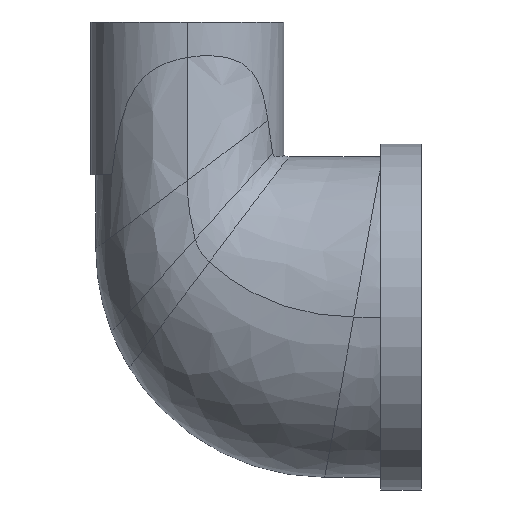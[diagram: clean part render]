
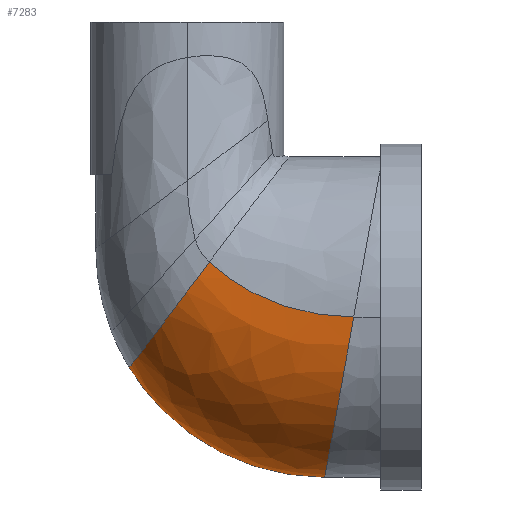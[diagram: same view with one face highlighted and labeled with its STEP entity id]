
A CAD part, front view. The second image highlights one B-rep face of the part: STEP entity #7283.
In plain terms, the highlighted free-form (B-spline) face has degree [3, 3] with [7, 7] control points.
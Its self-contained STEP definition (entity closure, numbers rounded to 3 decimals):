
#129 = CARTESIAN_POINT ( 'NONE',  ( 7.745, 0., -15.257 ) ) ;
#216 = CARTESIAN_POINT ( 'NONE',  ( 15.987, -14.794, -2.049 ) ) ;
#249 = CARTESIAN_POINT ( 'NONE',  ( 11.582, 0., -15.75 ) ) ;
#253 = CARTESIAN_POINT ( 'NONE',  ( 15.009, -14.601, 0. ) ) ;
#360 = CARTESIAN_POINT ( 'NONE',  ( -0.877, -11.829, 1.364 ) ) ;
#833 = EDGE_CURVE ( 'NONE', #9245, #5083, #9434, .T. ) ;
#927 = CARTESIAN_POINT ( 'NONE',  ( -2.291, -1.709, -9.622 ) ) ;
#964 = CARTESIAN_POINT ( 'NONE',  ( 10.571, -13.475, -5.782 ) ) ;
#991 = CARTESIAN_POINT ( 'NONE',  ( 7.745, -1.861, -15.257 ) ) ;
#1024 = CARTESIAN_POINT ( 'NONE',  ( 7.702, -13.636, -0.533 ) ) ;
#1132 = CARTESIAN_POINT ( 'NONE',  ( -4.269, -4.975, -5.995 ) ) ;
#1661 = CARTESIAN_POINT ( 'NONE',  ( 16.351, -14.794, 0. ) ) ;
#1698 = CARTESIAN_POINT ( 'NONE',  ( -2.291, 0., -9.622 ) ) ;
#1801 = CARTESIAN_POINT ( 'NONE',  ( -1.873, -5.127, -8.928 ) ) ;
#1871 = CARTESIAN_POINT ( 'NONE',  ( 3.028, -12.671, 4.573 ) ) ;
#1905 = CARTESIAN_POINT ( 'NONE',  ( -5.263, -4.899, -4.403 ) ) ;
#1936 = CARTESIAN_POINT ( 'NONE',  ( 2.037, -12.671, 3.125 ) ) ;
#2065 = CARTESIAN_POINT ( 'NONE',  ( 16.351, -14.794, 0. ) ) ;
#2264 = ORIENTED_EDGE ( 'NONE', *, *, #833, .T. ) ;
#2456 = ORIENTED_EDGE ( 'NONE', *, *, #5210, .F. ) ;
#2476 = CARTESIAN_POINT ( 'NONE',  ( 8.483, -13.636, 1.333 ) ) ;
#2493 = CARTESIAN_POINT ( 'NONE',  ( -2.291, 0., -9.622 ) ) ;
#2690 = CARTESIAN_POINT ( 'NONE',  ( 8.483, -13.636, 1.333 ) ) ;
#2712 = EDGE_CURVE ( 'NONE', #6451, #9245, #6723, .T. ) ;
#2754 = CARTESIAN_POINT ( 'NONE',  ( -5.263, -4.899, -4.403 ) ) ;
#3128 = CARTESIAN_POINT ( 'NONE',  ( 13.5, -1.937, -15.75 ) ) ;
#3257 = CARTESIAN_POINT ( 'NONE',  ( 13.665, -5.809, -14.907 ) ) ;
#3265 = CARTESIAN_POINT ( 'NONE',  ( 13.5, -1.937, -15.75 ) ) ;
#3337 = CARTESIAN_POINT ( 'NONE',  ( 14.318, -10.733, -11.377 ) ) ;
#3372 = CARTESIAN_POINT ( 'NONE',  ( 13.665, -5.809, -14.907 ) ) ;
#3408 = CARTESIAN_POINT ( 'NONE',  ( 11.78, -5.733, -14.902 ) ) ;
#3483 = CARTESIAN_POINT ( 'NONE',  ( -5.709, 0., -4.966 ) ) ;
#3519 = B_SPLINE_CURVE_WITH_KNOTS ( 'NONE', 3,
 ( #1661, #5499, #8673, #6372, #3257, #3128, #9398 ),
 .UNSPECIFIED., .F., .F.,
 ( 4, 1, 1, 1, 4 ),
 ( 0., 0.25, 0.5, 0.75, 1. ),
 .UNSPECIFIED. ) ;
#3580 = CARTESIAN_POINT ( 'NONE',  ( -2.505, -9.193, -3.478 ) ) ;
#4002 = CARTESIAN_POINT ( 'NONE',  ( 11.582, 0., -15.75 ) ) ;
#4033 = CARTESIAN_POINT ( 'NONE',  ( 13.5, 0., -15.75 ) ) ;
#4051 = CARTESIAN_POINT ( 'NONE',  ( 6.139, -12.926, -4.265 ) ) ;
#4084 = CARTESIAN_POINT ( 'NONE',  ( 3.028, -12.671, 4.573 ) ) ;
#4158 = CARTESIAN_POINT ( 'NONE',  ( 16.351, -14.794, 0. ) ) ;
#4188 = CARTESIAN_POINT ( 'NONE',  ( 7.745, 0., -15.257 ) ) ;
#4588 = CARTESIAN_POINT ( 'NONE',  ( -5.709, 0., -4.966 ) ) ;
#4670 = FACE_OUTER_BOUND ( 'NONE', #9375, .T. ) ;
#4825 = CARTESIAN_POINT ( 'NONE',  ( -5.709, 0., -4.966 ) ) ;
#4842 = CARTESIAN_POINT ( 'NONE',  ( 15.259, -14.024, -6.145 ) ) ;
#4941 = CARTESIAN_POINT ( 'NONE',  ( 2.365, -1.785, -13.085 ) ) ;
#4947 = CARTESIAN_POINT ( 'NONE',  ( 12.323, -14.215, 0.247 ) ) ;
#4970 = ORIENTED_EDGE ( 'NONE', *, *, #2712, .T. ) ;
#4982 = CARTESIAN_POINT ( 'NONE',  ( 4.072, -13.057, 1.422 ) ) ;
#5057 = CARTESIAN_POINT ( 'NONE',  ( -5.709, -1.633, -4.966 ) ) ;
#5083 = VERTEX_POINT ( 'NONE', #4588 ) ;
#5085 = CARTESIAN_POINT ( 'NONE',  ( -4.71, 0., -6.604 ) ) ;
#5210 = EDGE_CURVE ( 'NONE', #6854, #5083, #6747, .T. ) ;
#5472 = CARTESIAN_POINT ( 'NONE',  ( 16.351, -14.794, 0. ) ) ;
#5499 = CARTESIAN_POINT ( 'NONE',  ( 15.987, -14.794, -2.049 ) ) ;
#5590 = CARTESIAN_POINT ( 'NONE',  ( -4.71, 0., -6.604 ) ) ;
#5606 = CARTESIAN_POINT ( 'NONE',  ( 2.205, -12.377, -1.86 ) ) ;
#5638 = CARTESIAN_POINT ( 'NONE',  ( 11.739, -14.215, -1.763 ) ) ;
#5861 = CARTESIAN_POINT ( 'NONE',  ( 2.146, -12.478, 5.392 ) ) ;
#6372 = CARTESIAN_POINT ( 'NONE',  ( 14.318, -10.733, -11.377 ) ) ;
#6413 = CARTESIAN_POINT ( 'NONE',  ( 12.565, -10.593, -11.367 ) ) ;
#6451 = VERTEX_POINT ( 'NONE', #2065 ) ;
#6514 = CARTESIAN_POINT ( 'NONE',  ( 5.005, -13.057, 3.064 ) ) ;
#6548 = CARTESIAN_POINT ( 'NONE',  ( -0.206, -9.473, -6.068 ) ) ;
#6589 = CARTESIAN_POINT ( 'NONE',  ( 5.005, -13.057, 3.064 ) ) ;
#6626 = CARTESIAN_POINT ( 'NONE',  ( -3.475, -9.053, -2.073 ) ) ;
#6723 = B_SPLINE_CURVE_WITH_KNOTS ( 'NONE', 3,
 ( #4158, #253, #4947, #2690, #6589, #1871, #9713 ),
 .UNSPECIFIED., .F., .F.,
 ( 4, 1, 1, 1, 4 ),
 ( 0., 0.25, 0.5, 0.75, 1. ),
 .UNSPECIFIED. ) ;
#6727 = CARTESIAN_POINT ( 'NONE',  ( 2.146, -12.478, 5.392 ) ) ;
#6747 = B_SPLINE_CURVE_WITH_KNOTS ( 'NONE', 3,
 ( #4033, #4002, #129, #7950, #2493, #5590, #4825 ),
 .UNSPECIFIED., .F., .F.,
 ( 4, 1, 1, 1, 4 ),
 ( 0., 0.25, 0.5, 0.75, 1. ),
 .UNSPECIFIED. ) ;
#6854 = VERTEX_POINT ( 'NONE', #7975 ) ;
#6914 = CARTESIAN_POINT ( 'NONE',  ( 2.146, -12.478, 5.392 ) ) ;
#7089 = ORIENTED_EDGE ( 'NONE', *, *, #7834, .F. ) ;
#7196 = CARTESIAN_POINT ( 'NONE',  ( 8.01, -5.581, -14.415 ) ) ;
#7233 = CARTESIAN_POINT ( 'NONE',  ( 2.718, -5.354, -12.297 ) ) ;
#7283 = ADVANCED_FACE ( 'NONE', ( #4670 ), #9558, .T. ) ;
#7295 = CARTESIAN_POINT ( 'NONE',  ( 13.5, 0., -15.75 ) ) ;
#7372 = CARTESIAN_POINT ( 'NONE',  ( -3.475, -9.053, -2.073 ) ) ;
#7408 = CARTESIAN_POINT ( 'NONE',  ( -0.877, -11.829, 1.364 ) ) ;
#7442 = CARTESIAN_POINT ( 'NONE',  ( -5.709, -1.633, -4.966 ) ) ;
#7505 = CARTESIAN_POINT ( 'NONE',  ( -5.709, 0., -4.966 ) ) ;
#7834 = EDGE_CURVE ( 'NONE', #6451, #6854, #3519, .T. ) ;
#7950 = CARTESIAN_POINT ( 'NONE',  ( 2.365, 0., -13.085 ) ) ;
#7962 = CARTESIAN_POINT ( 'NONE',  ( 9.059, -10.313, -10.927 ) ) ;
#7975 = CARTESIAN_POINT ( 'NONE',  ( 13.5, 0., -15.75 ) ) ;
#8031 = CARTESIAN_POINT ( 'NONE',  ( 13.696, -13.841, -6.137 ) ) ;
#8174 = CARTESIAN_POINT ( 'NONE',  ( 1.138, -12.478, 4.049 ) ) ;
#8236 = CARTESIAN_POINT ( 'NONE',  ( 1.138, -12.478, 4.049 ) ) ;
#8269 = CARTESIAN_POINT ( 'NONE',  ( -4.71, -1.659, -6.604 ) ) ;
#8673 = CARTESIAN_POINT ( 'NONE',  ( 15.259, -14.024, -6.145 ) ) ;
#8745 = CARTESIAN_POINT ( 'NONE',  ( 14.571, -14.601, -2.046 ) ) ;
#8815 = CARTESIAN_POINT ( 'NONE',  ( 4.118, -9.893, -9.047 ) ) ;
#8852 = CARTESIAN_POINT ( 'NONE',  ( 15.009, -14.601, 0. ) ) ;
#9025 = CARTESIAN_POINT ( 'NONE',  ( 0.054, -12.012, 0.231 ) ) ;
#9245 = VERTEX_POINT ( 'NONE', #6914 ) ;
#9375 = EDGE_LOOP ( 'NONE', ( #2264, #2456, #7089, #4970 ) ) ;
#9398 = CARTESIAN_POINT ( 'NONE',  ( 13.5, 0., -15.75 ) ) ;
#9434 = B_SPLINE_CURVE_WITH_KNOTS ( 'NONE', 3,
 ( #5861, #8174, #360, #6626, #1905, #5057, #3483 ),
 .UNSPECIFIED., .F., .F.,
 ( 4, 1, 1, 1, 4 ),
 ( 0., 0.25, 0.5, 0.75, 1. ),
 .UNSPECIFIED. ) ;
#9558 = B_SPLINE_SURFACE_WITH_KNOTS ( 'NONE', 3, 3, ( 
 ( #5472, #216, #4842, #3337, #3372, #3265, #7295 ),
 ( #8852, #8745, #8031, #6413, #3408, #9602, #249 ),
 ( #9674, #5638, #964, #7962, #7196, #991, #4188 ),
 ( #2476, #1024, #4051, #8815, #7233, #4941, #9642 ),
 ( #6514, #4982, #5606, #6548, #1801, #927, #1698 ),
 ( #4084, #1936, #9025, #3580, #1132, #8269, #5085 ),
 ( #6727, #8236, #7408, #7372, #2754, #7442, #7505 ) ),
 .UNSPECIFIED., .F., .F., .F.,
 ( 4, 1, 1, 1, 4 ),
 ( 4, 1, 1, 1, 4 ),
 ( 0.142, 0.227, 0.313, 0.399, 0.485 ),
 ( 0.75, 0.813, 0.875, 0.938, 1. ),
 .UNSPECIFIED. ) ;
#9602 = CARTESIAN_POINT ( 'NONE',  ( 11.582, -1.911, -15.75 ) ) ;
#9642 = CARTESIAN_POINT ( 'NONE',  ( 2.365, 0., -13.085 ) ) ;
#9674 = CARTESIAN_POINT ( 'NONE',  ( 12.323, -14.215, 0.247 ) ) ;
#9713 = CARTESIAN_POINT ( 'NONE',  ( 2.146, -12.478, 5.392 ) ) ;
